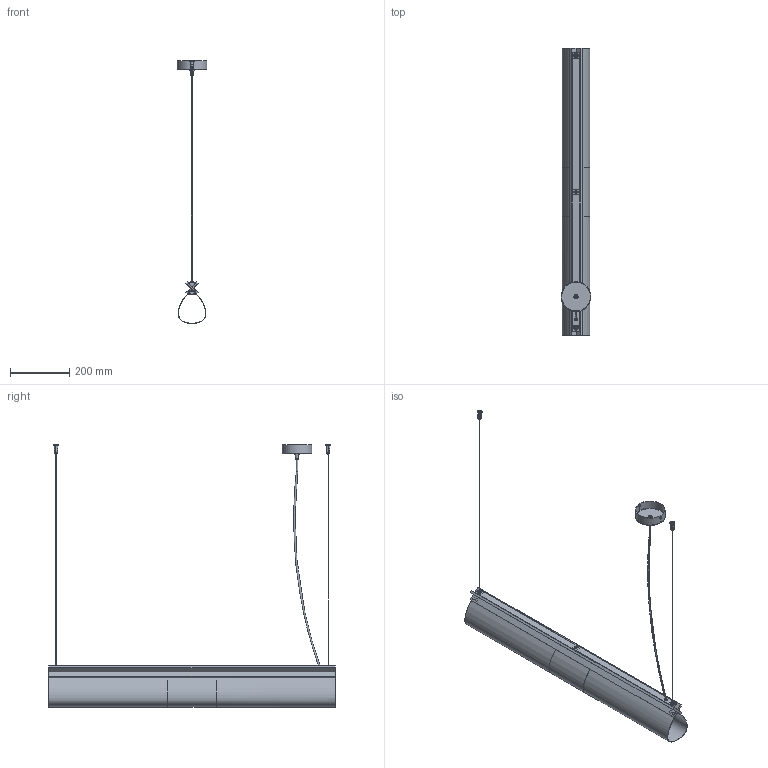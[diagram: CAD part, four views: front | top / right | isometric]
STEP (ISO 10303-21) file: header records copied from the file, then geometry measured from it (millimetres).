
FILE_DESCRIPTION(/* description */ (''),/* implementation_level */ '2;1');
FILE_NAME(/* name */ '20329',/* time_stamp */ '2026-04-20T13:04:04+02:00',/* author */ (''),/* organization */ (''),/* preprocessor_version */ 'ST-DEVELOPER v19.2',/* originating_system */ 'Rhino 8.23',/* authorisation */ '');
FILE_SCHEMA (('CONFIG_CONTROL_DESIGN'));
Length unit declared in the file: millimetre
Products named in the file (2): Document; CATA
Bounding box: 99.99 x 970 x 887.71 mm (x, y, z)
Volume: 57208.6 mm3; surface area: 1088009.3 mm2
Topology: 15 solids, 114 shells, 696 faces, 2057 edges, 1578 vertices
Faces by surface type: cylinder 287, plane 272, bspline 137
Entity records: 33460 total; most frequent: CARTESIAN_POINT 17803, ORIENTED_EDGE 3315, DIRECTION 1983, EDGE_CURVE 1949, VERTEX_POINT 1390, AXIS2_PLACEMENT_3D 1271, B_SPLINE_CURVE_WITH_KNOTS 1143, EDGE_LOOP 788
